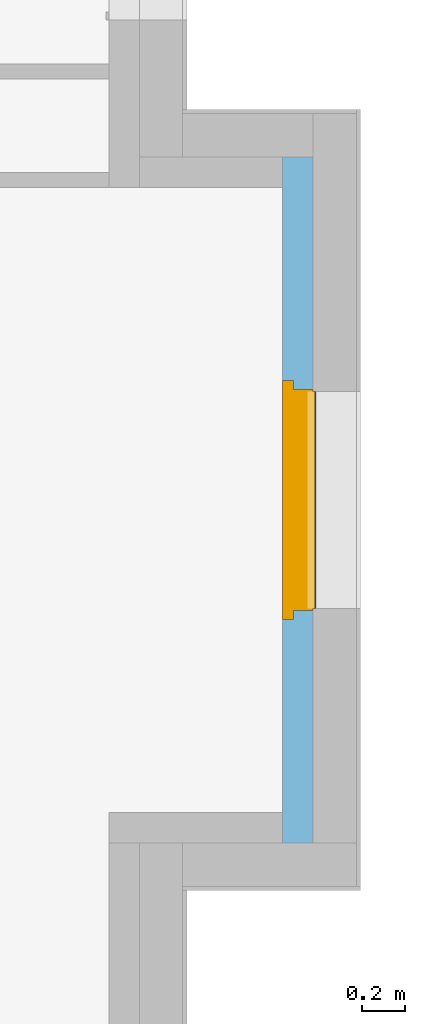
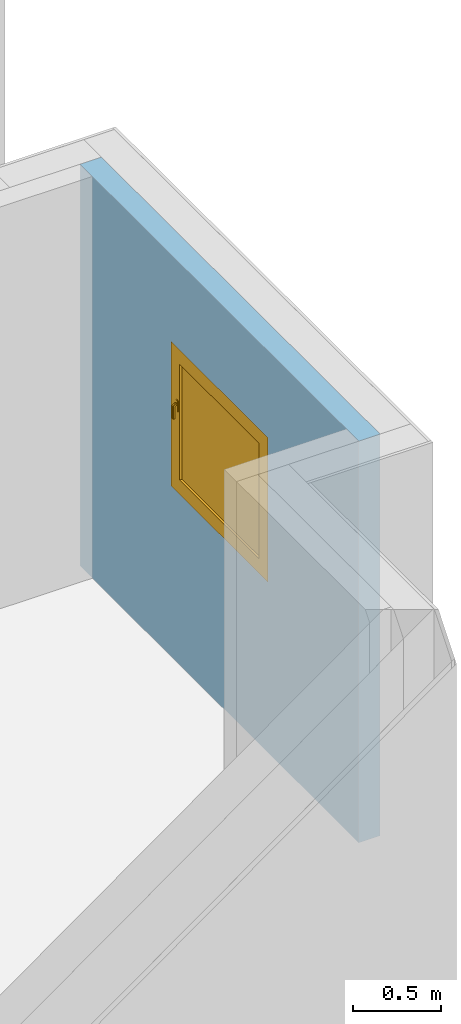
"""IFC2X3 building model written with IfcOpenShell, lengths in centimetres."""

from ifc_helpers import new_model, entity, si_unit, converted_unit, derived_unit, direction, frame, frame_2d, origin, place, context, subcontext, project, spatial, rectangle, extrude, faceted_brep, source, transform, mapped, material, material_list, layer, layer_set, layer_usage, type_object, type_shapes, element, fill, save


model = new_model("IFC2X3")

# Units and contexts
model_context = context("Model", 3, precision=0.001, world=origin(), true_north=direction((6.123031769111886e-17, 1.0)))
body_context = subcontext(model_context, "Body", "Model", "MODEL_VIEW")
ifc_project = project(units=[si_unit("LENGTHUNIT", "METRE", prefix="CENTI"), si_unit("AREAUNIT", "SQUARE_METRE"), si_unit("VOLUMEUNIT", "CUBIC_METRE"), converted_unit("PLANEANGLEUNIT", "DEGREE", entity("IfcRatioMeasure", 0.017453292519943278), si_unit("PLANEANGLEUNIT", "RADIAN"), dimensions=[0, 0, 0, 0, 0, 0, 0]), si_unit("MASSUNIT", "GRAM", prefix="KILO"), derived_unit("MASSDENSITYUNIT", [(si_unit("MASSUNIT", "GRAM", prefix="KILO"), 1), (si_unit("LENGTHUNIT", "METRE"), -3)]), derived_unit("MOMENTOFINERTIAUNIT", [(si_unit("LENGTHUNIT", "METRE"), 4)]), si_unit("TIMEUNIT", "SECOND"), si_unit("FREQUENCYUNIT", "HERTZ"), si_unit("THERMODYNAMICTEMPERATUREUNIT", "DEGREE_CELSIUS"), derived_unit("THERMALTRANSMITTANCEUNIT", [(si_unit("MASSUNIT", "GRAM", prefix="KILO"), 1), (si_unit("THERMODYNAMICTEMPERATUREUNIT", "KELVIN"), -1), (si_unit("TIMEUNIT", "SECOND"), -3)]), derived_unit("VOLUMETRICFLOWRATEUNIT", [(si_unit("LENGTHUNIT", "METRE"), 3), (si_unit("TIMEUNIT", "SECOND"), -1)]), derived_unit("MASSFLOWRATEUNIT", [(si_unit("MASSUNIT", "GRAM", prefix="KILO"), 1), (si_unit("TIMEUNIT", "SECOND"), -1)]), derived_unit("ROTATIONALFREQUENCYUNIT", [(si_unit("TIMEUNIT", "SECOND"), -1)]), si_unit("ELECTRICCURRENTUNIT", "AMPERE"), si_unit("ELECTRICVOLTAGEUNIT", "VOLT"), si_unit("POWERUNIT", "WATT"), si_unit("FORCEUNIT", "NEWTON", prefix="KILO"), si_unit("ILLUMINANCEUNIT", "LUX"), si_unit("LUMINOUSFLUXUNIT", "LUMEN"), si_unit("LUMINOUSINTENSITYUNIT", "CANDELA"), derived_unit("USERDEFINED", [(si_unit("MASSUNIT", "GRAM", prefix="KILO"), -1), (si_unit("LENGTHUNIT", "METRE"), -2), (si_unit("TIMEUNIT", "SECOND"), 3), (si_unit("LUMINOUSFLUXUNIT", "LUMEN"), 1)]), derived_unit("SOUNDPOWERUNIT", [(si_unit("MASSUNIT", "GRAM", prefix="KILO"), 1), (si_unit("LENGTHUNIT", "METRE"), 2), (si_unit("TIMEUNIT", "SECOND"), -3)]), derived_unit("SOUNDPRESSUREUNIT", [(si_unit("MASSUNIT", "GRAM", prefix="KILO"), 1), (si_unit("LENGTHUNIT", "METRE"), -1), (si_unit("TIMEUNIT", "SECOND"), -2)]), derived_unit("LINEARVELOCITYUNIT", [(si_unit("LENGTHUNIT", "METRE"), 1), (si_unit("TIMEUNIT", "SECOND"), -1)]), si_unit("PRESSUREUNIT", "PASCAL"), derived_unit("USERDEFINED", [(si_unit("LENGTHUNIT", "METRE"), -2), (si_unit("MASSUNIT", "GRAM", prefix="KILO"), 1), (si_unit("TIMEUNIT", "SECOND"), -2)]), derived_unit("LINEARFORCEUNIT", [(si_unit("MASSUNIT", "GRAM", prefix="KILO"), 1), (si_unit("LENGTHUNIT", "METRE"), 1), (si_unit("TIMEUNIT", "SECOND"), -2), (si_unit("LENGTHUNIT", "METRE"), -1)]), derived_unit("PLANARFORCEUNIT", [(si_unit("MASSUNIT", "GRAM", prefix="KILO"), 1), (si_unit("LENGTHUNIT", "METRE"), 1), (si_unit("TIMEUNIT", "SECOND"), -2), (si_unit("LENGTHUNIT", "METRE"), -2)])], contexts=[model_context])

# Site, building, storey
site_placement = place(None, origin())
site = spatial("IfcSite", under=ifc_project, at=site_placement, Name="Default", CompositionType="ELEMENT")
building_placement = place(site_placement, origin())
building = spatial("IfcBuilding", under=site, at=building_placement, CompositionType="ELEMENT")
storey_1_placement = place(building_placement, frame((0.0, 0.0, -8.0)))
storey_1 = spatial("IfcBuildingStorey", under=building, at=storey_1_placement, Name="-0.08_Dessus plancher", CompositionType="ELEMENT", Elevation=-8.000000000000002)

# Wall, opening
ifc_material_1 = material(Name="Isolant rigide")
ifc_layer = layer(ifc_material_1, 14.0)
ifc_layer_set = layer_set([ifc_layer], Name="Mur de base:Doublage 14")
ifc_layer_usage = layer_usage(ifc_layer_set, "AXIS2", "NEGATIVE", 7.0)
wall_type = type_object("IfcWallType", Name="Mur de base:Doublage 14", PredefinedType="STANDARD", material=ifc_layer_set)
wall_placement = place(storey_1_placement, frame((-312.82536305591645, 396.6042960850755, 0.0), z_axis=(0.0, 0.0, 1.0), x_axis=(0.0, -1.0, 0.0)))
wall = element("IfcWallStandardCase", 1, at=wall_placement, inside=storey_1, type_object=wall_type, material=ifc_layer_usage, Name="Mur de base:Doublage 14", ObjectType="Mur de base:Doublage 14", context=body_context, shape_type="SweptSolid", body=[
    extrude(rectangle(XDim=316.0000000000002, YDim=14.00000000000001, at=frame_2d((158.00000000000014, -2.708944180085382e-14), x_axis=(-1.0, 0.0))), origin(), (0.0, 0.0, 1.0), 278.00000000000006),
])
opening_placement = place(wall_placement, frame((213.0, -50.0, 111.7703094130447), z_axis=(0.0, 0.0, 1.0), x_axis=(0.0, 1.0, 0.0)))
opening = element("IfcOpeningElement", 2, at=opening_placement, cuts=wall, Name="Mur de base:Doublage 14", ObjectType="Opening", context=body_context, shape_type="Brep", body=[
    faceted_brep([(55.0, 105.0, 6.229690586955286), (57.0, 105.0, 6.229690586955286), (57.0, 105.0, 101.22969058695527), (100.0, 105.0, 101.22969058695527), (100.0, 105.0, 0.0), (55.0, 105.0, 4.7296905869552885), (0.0, 5.0, 6.229690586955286), (43.0, 5.0, 6.229690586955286), (43.0, 5.0, 101.22969058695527), (0.0, 5.0, 101.22969058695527), (0.0, 105.0, 6.229690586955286), (43.0, 105.0, 6.229690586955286), (43.0, 110.0, 6.229690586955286), (48.0, 110.0, 6.229690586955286), (48.0, 106.0, 6.229690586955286), (57.0, 106.0, 6.229690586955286), (55.0, 5.0, 6.22969058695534), (57.0, 5.0, 6.229690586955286), (57.0, 4.0, 6.229690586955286), (48.0, 4.0, 6.229690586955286), (48.0, 0.0, 6.229690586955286), (43.0, 0.0, 6.229690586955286), (0.0, 105.0, 101.22969058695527), (57.0, 5.0, 101.22969058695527), (100.0, 5.0, 101.22969058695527), (100.0, 5.0, 0.0), (55.0, 5.0, 4.7296905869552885), (43.0, 110.0, 106.22969058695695), (48.0, 110.0, 106.22969058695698), (48.0, 0.0, 106.22969058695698), (48.0, 4.0, 102.22969058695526), (48.0, 106.0, 102.22969058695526), (57.0, 106.0, 102.22969058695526), (57.0, 4.0, 102.22969058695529), (43.0, 105.0, 101.22969058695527), (43.0, 0.0, 106.22969058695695)], [[[0, 1, 2, 3, 4, 5]], [[6, 7, 8, 9]], [[10, 11, 12, 13, 14, 15, 1, 0, 16, 17, 18, 19, 20, 21, 7, 6]], [[10, 6, 9, 22]], [[3, 2, 23, 24]], [[3, 24, 25, 4]], [[4, 25, 26, 5]], [[5, 26, 16, 0]], [[12, 27, 28, 13]], [[13, 28, 29, 20, 19, 30, 31, 14]], [[14, 31, 32, 15]], [[15, 32, 33, 18, 17, 23, 2, 1]], [[11, 34, 8, 7, 21, 35, 27, 12]], [[27, 35, 29, 28]], [[30, 33, 32, 31]], [[29, 35, 21, 20]], [[19, 18, 33, 30]], [[9, 8, 34, 22]], [[24, 23, 17, 16, 26, 25]], [[22, 34, 11, 10]]]),
])

# Storey
storey_2_placement = place(building_placement, origin())
storey_2 = spatial("IfcBuildingStorey", under=building, at=storey_2_placement, Name="1_Rez-de-chaussée", CompositionType="ELEMENT", Elevation=-7.93413063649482e-11)

# Window
ifc_material_2 = material(Name="Fenêtre - Poignée")
ifc_material_3 = material(Name="Fenêtre - Appui")
ifc_material_4 = material(Name="Fenêtre - Vitrage")
ifc_material_5 = material(Name="Fenêtre - Cadre")
ifc_material_list_1 = material_list([ifc_material_2, ifc_material_2, ifc_material_3, ifc_material_3, ifc_material_3, ifc_material_4, ifc_material_5, ifc_material_5, ifc_material_5])
ifc_material_list_2 = material_list([ifc_material_2, ifc_material_2, ifc_material_3, ifc_material_3, ifc_material_3, ifc_material_4, ifc_material_5, ifc_material_5, ifc_material_5])
window_style = type_object("IfcWindowStyle", Name="1 Vantail - Droit:1.00 m x 0.95 m", ConstructionType="NOTDEFINED", OperationType="NOTDEFINED", ParameterTakesPrecedence=False, Sizeable=False, material=ifc_material_list_2)
shared_shape = source(origin(), body_context, "Body", "Brep", [
    faceted_brep([(8.06460096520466, -57.60000000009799, 68.43308351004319), (8.203392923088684, -57.60000000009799, 68.29429155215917), (8.203392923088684, -57.60000000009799, 67.16292070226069), (8.066769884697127, -57.60000000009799, 67.02629766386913), (6.933230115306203, -57.60000000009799, 67.02629766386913), (6.796607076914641, -57.60000000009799, 67.16292070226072), (6.796607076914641, -57.60000000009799, 68.29429155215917), (6.935399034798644, -57.60000000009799, 68.43308351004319), (8.064600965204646, -58.8913548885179, 68.43308351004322), (8.203392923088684, -58.83386537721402, 68.29429155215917), (8.203392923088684, -60.164600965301, 66.9635559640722), (8.203392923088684, -60.164600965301, 58.22969058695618), (8.203392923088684, -59.03323011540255, 58.22969058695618), (8.203392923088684, -59.03323011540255, 66.49492681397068), (8.203392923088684, -58.3652362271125, 67.16292070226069), (8.066769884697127, -58.30864511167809, 67.02629766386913), (6.933230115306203, -58.30864511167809, 67.02629766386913), (6.796607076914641, -58.365236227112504, 67.16292070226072), (6.796607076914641, -59.03323011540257, 66.49492681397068), (6.796607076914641, -59.03323011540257, 58.22969058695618), (6.796607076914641, -60.16460096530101, 58.22969058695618), (6.796607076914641, -60.16460096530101, 66.9635559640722), (6.796607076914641, -58.83386537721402, 68.29429155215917), (6.935399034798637, -58.891354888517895, 68.43308351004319), (8.06460096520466, -60.303392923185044, 67.02104547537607), (8.066769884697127, -58.896607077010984, 66.43833569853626), (6.933230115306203, -58.896607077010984, 66.43833569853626), (6.935399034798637, -60.303392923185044, 67.02104547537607), (8.06460096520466, -60.303392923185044, 58.22969058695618), (6.935399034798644, -60.303392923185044, 58.22969058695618), (6.933230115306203, -58.89660707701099, 58.22969058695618), (8.066769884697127, -58.89660707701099, 58.22969058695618)], [[[0, 1, 2, 3, 4, 5, 6, 7]], [[1, 0, 8, 9]], [[2, 1, 9, 10, 11, 12, 13, 14]], [[3, 2, 14, 15]], [[4, 3, 15, 16]], [[5, 4, 16, 17]], [[6, 5, 17, 18, 19, 20, 21, 22]], [[7, 6, 22, 23]], [[0, 7, 23, 8]], [[9, 8, 24, 10]], [[15, 14, 13, 25]], [[16, 15, 25, 26]], [[17, 16, 26, 18]], [[23, 22, 21, 27]], [[8, 23, 27, 24]], [[28, 29, 20, 19, 30, 31, 12, 11]], [[10, 24, 28, 11]], [[25, 13, 12, 31]], [[26, 25, 31, 30]], [[18, 26, 30, 19]], [[27, 21, 20, 29]], [[24, 27, 29, 28]]]),
    faceted_brep([(8.200000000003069, -57.600000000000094, 70.22969058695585), (6.800000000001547, -57.600000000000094, 70.22969058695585), (6.300000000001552, -57.600000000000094, 69.72969058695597), (6.300000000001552, -57.600000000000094, 62.72969058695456), (6.800000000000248, -57.600000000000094, 62.22969058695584), (8.200000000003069, -57.600000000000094, 62.22969058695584), (8.700000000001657, -57.600000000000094, 62.72969058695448), (8.700000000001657, -57.600000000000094, 69.72969058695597), (8.200000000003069, -57.0, 70.22969058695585), (8.700000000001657, -57.0, 69.72969058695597), (8.700000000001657, -57.0, 62.72969058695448), (8.200000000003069, -57.0, 62.22969058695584), (6.800000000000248, -57.0, 62.22969058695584), (6.300000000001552, -57.0, 62.72969058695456), (6.300000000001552, -57.0, 69.72969058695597), (6.800000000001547, -57.0, 70.22969058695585)], [[[0, 1, 2, 3, 4, 5, 6, 7]], [[8, 9, 10, 11, 12, 13, 14, 15]], [[1, 0, 8, 15]], [[2, 1, 15, 14]], [[3, 2, 14, 13]], [[4, 3, 13, 12]], [[5, 4, 12, 11]], [[6, 5, 11, 10]], [[7, 6, 10, 9]], [[0, 7, 9, 8]]]),
    faceted_brep([(105.0, -41.49999999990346, 4.887346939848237), (105.0, -44.499999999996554, 5.202659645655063), (105.0, -44.499999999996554, 6.229690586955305), (105.0, -45.0, 6.229690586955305), (105.0, -45.0, 4.729690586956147), (105.0, -42.0, 4.4143778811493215), (105.0, -42.0, 3.384327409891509), (105.0, -41.49999999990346, 3.331775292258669), (5.0, -41.49999999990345, 4.887346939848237), (5.0, -41.49999999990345, 3.331775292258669), (5.0, -42.0, 3.384327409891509), (5.0, -42.0, 4.4143778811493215), (5.0, -45.0, 4.729690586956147), (5.0, -45.0, 6.229690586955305), (5.0, -44.499999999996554, 6.229690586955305), (5.0, -44.499999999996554, 5.202659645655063)], [[[0, 1, 2, 3, 4, 5, 6, 7]], [[8, 9, 10, 11, 12, 13, 14, 15]], [[1, 0, 8, 15]], [[2, 1, 15, 14]], [[3, 2, 14, 13]], [[4, 3, 13, 12]], [[5, 4, 12, 11]], [[6, 5, 11, 10]], [[7, 6, 10, 9]], [[0, 7, 9, 8]]]),
    faceted_brep([(5.0, -41.49999999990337, 5.029939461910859), (5.0, -41.49999999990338, 4.887346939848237), (5.0, -44.499999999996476, 5.202659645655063), (5.0, -44.499999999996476, 5.7054137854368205), (5.0, -41.85818861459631, 5.427748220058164), (5.0, -41.60274206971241, 5.2975917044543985), (5.500000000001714, -44.499999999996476, 5.7054137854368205), (5.500000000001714, -44.499999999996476, 5.202659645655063), (5.50000000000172, -41.49999999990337, 4.887346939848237), (5.50000000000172, -41.49999999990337, 5.029939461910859), (5.50000000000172, -41.60274206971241, 5.2975917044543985), (5.50000000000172, -41.85818861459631, 5.427748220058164)], [[[0, 1, 2, 3, 4, 5]], [[6, 7, 8, 9, 10, 11]], [[2, 1, 8, 7]], [[3, 2, 7, 6]], [[4, 3, 6, 11]], [[4, 11, 10, 5]], [[10, 9, 0, 5]], [[1, 0, 9, 8]]]),
    faceted_brep([(104.50000000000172, -41.49999999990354, 5.029939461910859), (104.50000000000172, -41.49999999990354, 4.887346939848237), (104.5000000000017, -44.49999999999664, 5.202659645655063), (104.5000000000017, -44.49999999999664, 5.7054137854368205), (104.50000000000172, -41.85818861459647, 5.427748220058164), (104.50000000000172, -41.602742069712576, 5.2975917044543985), (105.0, -44.49999999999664, 5.7054137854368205), (105.0, -44.49999999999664, 5.202659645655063), (105.0, -41.49999999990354, 4.887346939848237), (105.0, -41.49999999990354, 5.029939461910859), (105.0, -41.602742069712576, 5.2975917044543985), (105.0, -41.85818861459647, 5.427748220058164)], [[[0, 1, 2, 3, 4, 5]], [[6, 7, 8, 9, 10, 11]], [[2, 1, 8, 7]], [[3, 2, 7, 6]], [[4, 3, 6, 11]], [[4, 11, 10, 5]], [[10, 9, 0, 5]], [[1, 0, 9, 8]]]),
    faceted_brep([(10.0, -54.40000000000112, 16.22969058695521), (10.0, -54.40000000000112, 96.22969058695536), (100.0, -54.400000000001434, 96.22969058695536), (100.0, -54.400000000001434, 16.22969058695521), (10.0, -55.600000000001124, 16.22969058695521), (10.0, -55.600000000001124, 96.22969058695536), (100.0, -55.60000000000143, 96.22969058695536), (100.0, -55.60000000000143, 16.22969058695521)], [[[0, 1, 2, 3]], [[1, 0, 4, 5]], [[3, 2, 6, 7]], [[0, 3, 7, 4]], [[4, 7, 6, 5]], [[2, 1, 5, 6]]]),
    faceted_brep([(10.0, -53.0, 96.22969058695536), (10.0, -57.0, 96.22969058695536), (10.0, -57.0, 16.229690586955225), (10.0, -53.0, 16.22969058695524), (100.0, -57.0, 16.229690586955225), (100.0, -53.0, 16.229690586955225), (100.0, -57.0, 96.22969058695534), (105.0, -57.0, 11.229690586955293), (105.0, -57.0, 101.22969058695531), (5.0, -57.0, 101.22969058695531), (5.0, -57.0, 11.229690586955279), (100.0, -53.0, 96.22969058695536), (5.0, -53.0, 11.229690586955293), (5.0, -53.0, 101.22969058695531), (105.0, -53.0, 101.22969058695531), (105.0, -53.0, 11.229690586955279)], [[[0, 1, 2, 3]], [[3, 2, 4, 5]], [[2, 1, 6, 4], [7, 8, 9, 10]], [[5, 4, 6, 11]], [[5, 11, 0, 3], [12, 13, 14, 15]], [[9, 13, 12, 10]], [[10, 12, 15, 7]], [[7, 15, 14, 8]], [[11, 6, 1, 0]], [[8, 14, 13, 9]]], outer=[[True], [True], [False, True], [True], [False, True], [True], [True], [True], [True], [True]]),
    faceted_brep([(0.0, -57.0, 6.229690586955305), (0.0, -52.0, 6.229690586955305), (5.0, -52.0, 6.229690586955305), (5.0, -43.0, 6.229690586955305), (105.0, -43.0, 6.229690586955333), (105.0, -52.0, 6.229690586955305), (110.0, -52.0, 6.229690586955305), (110.0, -57.0, 6.229690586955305), (0.0, -57.0, 106.22969058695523), (0.0, -52.0, 106.22969058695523), (110.0, -52.0, 106.22969058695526), (105.0, -52.0, 10.16730483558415), (5.0, -52.0, 10.167304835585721), (6.500000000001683, -52.0, 99.7296905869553), (6.500000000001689, -52.0, 12.729690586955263), (103.50000000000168, -52.0, 12.729690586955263), (103.50000000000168, -52.0, 99.72969058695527), (5.0, -42.0, 7.48781291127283), (5.0, -42.0, 5.729690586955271), (5.0, -43.0, 5.729690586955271), (105.0, -43.0, 5.729690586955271), (105.0, -42.0, 5.729690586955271), (105.0, -42.0, 7.48781291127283), (110.0, -57.0, 106.22969058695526), (105.0, -57.0, 101.22969058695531), (105.0, -57.0, 11.229690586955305), (5.0, -57.0, 11.229690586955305), (5.0, -57.0, 101.22969058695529), (6.500000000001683, -53.0, 99.7296905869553), (6.500000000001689, -53.0, 12.729690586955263), (103.50000000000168, -53.0, 12.729690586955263), (103.50000000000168, -53.0, 99.72969058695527), (105.0, -53.0, 101.22969058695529), (5.0, -53.0, 101.22969058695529), (5.0, -53.0, 11.229690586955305), (105.0, -53.0, 11.229690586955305)], [[[0, 1, 2, 3, 4, 5, 6, 7]], [[1, 0, 8, 9]], [[1, 9, 10, 6, 5, 11, 12, 2], [13, 14, 15, 16]], [[12, 17, 18, 19, 3, 2]], [[3, 19, 20, 4]], [[4, 20, 21, 22, 11, 5]], [[6, 10, 23, 7]], [[0, 7, 23, 8], [24, 25, 26, 27]], [[13, 28, 29, 14]], [[29, 30, 15, 14]], [[31, 16, 15, 30]], [[17, 12, 11, 22]], [[32, 33, 34, 35], [28, 31, 30, 29]], [[34, 33, 27, 26]], [[26, 25, 35, 34]], [[24, 32, 35, 25]], [[18, 17, 22, 21]], [[19, 18, 21, 20]], [[13, 16, 31, 28]], [[33, 32, 24, 27]], [[10, 9, 8, 23]]]),
    faceted_brep([(5.0, -43.0, 6.229690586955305), (5.0, -52.0, 6.229690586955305), (4.0, -52.0, 6.229690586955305), (4.0, -43.0, 6.229690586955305), (5.0, -43.0, 101.22969058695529), (5.0, -52.0, 101.22969058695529), (105.0, -52.0, 101.22969058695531), (105.0, -52.0, 6.22969058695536), (106.0, -52.0, 6.229690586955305), (106.0, -52.0, 102.22969058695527), (4.0, -52.0, 102.22969058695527), (4.0, -43.0, 102.22969058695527), (106.0, -43.0, 102.2296905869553), (106.0, -43.0, 6.22969058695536), (105.0, -43.0, 6.229690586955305), (105.0, -43.0, 101.22969058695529)], [[[0, 1, 2, 3]], [[1, 0, 4, 5]], [[2, 1, 5, 6, 7, 8, 9, 10]], [[3, 2, 10, 11]], [[0, 3, 11, 12, 13, 14, 15, 4]], [[6, 15, 14, 7]], [[14, 13, 8, 7]], [[12, 9, 8, 13]], [[5, 4, 15, 6]], [[11, 10, 9, 12]]]),
])
type_shapes(window_style, [shared_shape])
window_placement = place(opening_placement, frame((100.0, 110.0, 0.0), z_axis=(0.0, 0.0, 1.0), x_axis=(0.0, -1.0, 0.0)))
window = element("IfcWindow", 3, at=window_placement, inside=storey_2, type_object=window_style, material=ifc_material_list_1, Name="1 Vantail - Droit:1.00 m x 0.95 m", ObjectType="1 Vantail - Droit:1.00 m x 0.95 m", OverallHeight=108.00000000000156, OverallWidth=110.00000000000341, context=body_context, shape_type="MappedRepresentation", body=[
    mapped(shared_shape, transform((0.0, 0.0, 0.0), scale=1.0)),
])

fill(opening, window)

save(model, "model.ifc")
